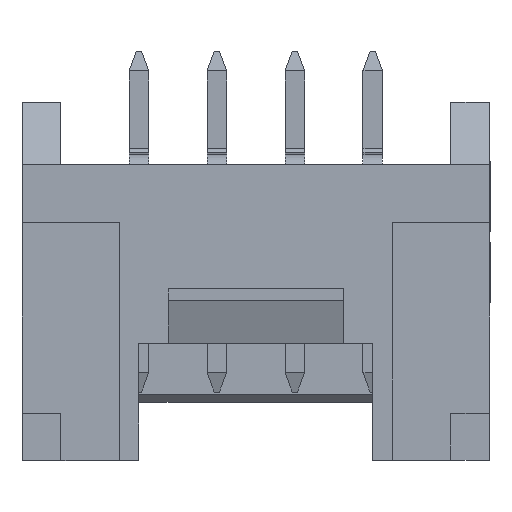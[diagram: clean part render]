
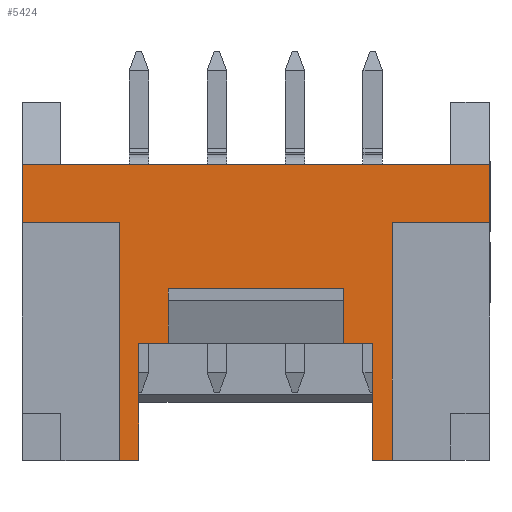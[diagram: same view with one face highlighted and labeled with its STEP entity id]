
A CAD part, top view. The second image highlights one B-rep face of the part: STEP entity #5424.
In plain terms, the highlighted planar face has unit normal (0, 0, 1).
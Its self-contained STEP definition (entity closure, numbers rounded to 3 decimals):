
#549 = VECTOR ( 'NONE', #18364, 1000. ) ;
#810 = VECTOR ( 'NONE', #2383, 1000. ) ;
#831 = VERTEX_POINT ( 'NONE', #10233 ) ;
#1001 = CARTESIAN_POINT ( 'NONE',  ( 3.5, -12.7, 4.65 ) ) ;
#1290 = CARTESIAN_POINT ( 'NONE',  ( 3., -2.1, 4.65 ) ) ;
#1603 = EDGE_CURVE ( 'NONE', #5416, #831, #9184, .T. ) ;
#2155 = EDGE_CURVE ( 'NONE', #17442, #17241, #17198, .T. ) ;
#2280 = VECTOR ( 'NONE', #12185, 1000. ) ;
#2317 = ORIENTED_EDGE ( 'NONE', *, *, #13703, .F. ) ;
#2330 = LINE ( 'NONE', #7779, #22401 ) ;
#2383 = DIRECTION ( 'NONE',  ( -1., 0., 0. ) ) ;
#3112 = DIRECTION ( 'NONE',  ( -1., 0., 0. ) ) ;
#3275 = VERTEX_POINT ( 'NONE', #13282 ) ;
#3505 = CARTESIAN_POINT ( 'NONE',  ( 3., -2.1, 4.65 ) ) ;
#3561 = ORIENTED_EDGE ( 'NONE', *, *, #23803, .F. ) ;
#3618 = ORIENTED_EDGE ( 'NONE', *, *, #2155, .T. ) ;
#3957 = DIRECTION ( 'NONE',  ( 0., 1., 0. ) ) ;
#4432 = EDGE_CURVE ( 'NONE', #17442, #23710, #2330, .T. ) ;
#4597 = DIRECTION ( 'NONE',  ( 0., 1., 0. ) ) ;
#4629 = CARTESIAN_POINT ( 'NONE',  ( -2.25, -0.7, 4.65 ) ) ;
#4718 = LINE ( 'NONE', #21087, #7409 ) ;
#4801 = VERTEX_POINT ( 'NONE', #13671 ) ;
#4852 = VERTEX_POINT ( 'NONE', #19725 ) ;
#5416 = VERTEX_POINT ( 'NONE', #15290 ) ;
#5424 = ADVANCED_FACE ( 'NONE', ( #9842 ), #6201, .T. ) ;
#5505 = ORIENTED_EDGE ( 'NONE', *, *, #4432, .F. ) ;
#6073 = VECTOR ( 'NONE', #16720, 1000. ) ;
#6201 = PLANE ( 'NONE',  #6450 ) ;
#6450 = AXIS2_PLACEMENT_3D ( 'NONE', #10196, #22930, #11767 ) ;
#6577 = EDGE_CURVE ( 'NONE', #23283, #9487, #21425, .T. ) ;
#7212 = LINE ( 'NONE', #12542, #549 ) ;
#7387 = CARTESIAN_POINT ( 'NONE',  ( -3., -5.1, 4.65 ) ) ;
#7409 = VECTOR ( 'NONE', #4597, 1000. ) ;
#7499 = EDGE_CURVE ( 'NONE', #8758, #12473, #11707, .T. ) ;
#7625 = CARTESIAN_POINT ( 'NONE',  ( 6., 2.5, 4.65 ) ) ;
#7779 = CARTESIAN_POINT ( 'NONE',  ( 6., 1., 4.65 ) ) ;
#7831 = VECTOR ( 'NONE', #18548, 1000. ) ;
#8082 = VERTEX_POINT ( 'NONE', #16111 ) ;
#8400 = ORIENTED_EDGE ( 'NONE', *, *, #10902, .F. ) ;
#8564 = LINE ( 'NONE', #21519, #11589 ) ;
#8758 = VERTEX_POINT ( 'NONE', #18306 ) ;
#8922 = EDGE_CURVE ( 'NONE', #3275, #5416, #14779, .T. ) ;
#8963 = DIRECTION ( 'NONE',  ( -1., 0., 0. ) ) ;
#9184 = LINE ( 'NONE', #18043, #7831 ) ;
#9487 = VERTEX_POINT ( 'NONE', #15906 ) ;
#9681 = LINE ( 'NONE', #16833, #6073 ) ;
#9738 = EDGE_CURVE ( 'NONE', #8082, #9854, #19962, .T. ) ;
#9842 = FACE_OUTER_BOUND ( 'NONE', #16760, .T. ) ;
#9854 = VERTEX_POINT ( 'NONE', #7387 ) ;
#10196 = CARTESIAN_POINT ( 'NONE',  ( 0., 4.1, 4.65 ) ) ;
#10230 = LINE ( 'NONE', #1001, #20177 ) ;
#10233 = CARTESIAN_POINT ( 'NONE',  ( 3.5, 1., 4.65 ) ) ;
#10902 = EDGE_CURVE ( 'NONE', #9487, #19272, #21778, .T. ) ;
#11247 = CARTESIAN_POINT ( 'NONE',  ( -3.5, -12.7, 4.65 ) ) ;
#11589 = VECTOR ( 'NONE', #3112, 1000. ) ;
#11707 = LINE ( 'NONE', #13649, #21954 ) ;
#11767 = DIRECTION ( 'NONE',  ( 0., -1., 0. ) ) ;
#11787 = ORIENTED_EDGE ( 'NONE', *, *, #12775, .F. ) ;
#12011 = ORIENTED_EDGE ( 'NONE', *, *, #16998, .T. ) ;
#12112 = DIRECTION ( 'NONE',  ( -1., 0., 0. ) ) ;
#12185 = DIRECTION ( 'NONE',  ( 0., 1., 0. ) ) ;
#12345 = DIRECTION ( 'NONE',  ( 0., -1., 0. ) ) ;
#12464 = CARTESIAN_POINT ( 'NONE',  ( -3., -8.1, 4.65 ) ) ;
#12470 = CARTESIAN_POINT ( 'NONE',  ( 0., -5.1, 4.65 ) ) ;
#12473 = VERTEX_POINT ( 'NONE', #4629 ) ;
#12542 = CARTESIAN_POINT ( 'NONE',  ( -6., 2.5, 4.65 ) ) ;
#12697 = ORIENTED_EDGE ( 'NONE', *, *, #1603, .F. ) ;
#12775 = EDGE_CURVE ( 'NONE', #9854, #17241, #17931, .T. ) ;
#12961 = DIRECTION ( 'NONE',  ( 0., -1., 0. ) ) ;
#13089 = ORIENTED_EDGE ( 'NONE', *, *, #8922, .F. ) ;
#13282 = CARTESIAN_POINT ( 'NONE',  ( 6., 2.5, 4.65 ) ) ;
#13649 = CARTESIAN_POINT ( 'NONE',  ( -2.25, -0.7, 4.65 ) ) ;
#13671 = CARTESIAN_POINT ( 'NONE',  ( 3.5, -5.1, 4.65 ) ) ;
#13680 = VECTOR ( 'NONE', #22747, 1000. ) ;
#13703 = EDGE_CURVE ( 'NONE', #8758, #8082, #23896, .T. ) ;
#14779 = LINE ( 'NONE', #7625, #22277 ) ;
#14964 = VERTEX_POINT ( 'NONE', #21103 ) ;
#15234 = LINE ( 'NONE', #20689, #810 ) ;
#15290 = CARTESIAN_POINT ( 'NONE',  ( 6., 1., 4.65 ) ) ;
#15684 = EDGE_CURVE ( 'NONE', #14964, #12473, #8564, .T. ) ;
#15808 = DIRECTION ( 'NONE',  ( 0., 1., 0. ) ) ;
#15906 = CARTESIAN_POINT ( 'NONE',  ( 3., -2.1, 4.65 ) ) ;
#16111 = CARTESIAN_POINT ( 'NONE',  ( -3., -2.1, 4.65 ) ) ;
#16147 = CARTESIAN_POINT ( 'NONE',  ( 2.25, -2.1, 4.65 ) ) ;
#16720 = DIRECTION ( 'NONE',  ( -1., 0., 0. ) ) ;
#16760 = EDGE_LOOP ( 'NONE', ( #12011, #12697, #13089, #23920, #18748, #5505, #3618, #11787, #17780, #2317, #19312, #21599, #19175, #8400, #20153, #3561 ) ) ;
#16833 = CARTESIAN_POINT ( 'NONE',  ( 3.5, 2.5, 4.65 ) ) ;
#16998 = EDGE_CURVE ( 'NONE', #4801, #831, #10230, .T. ) ;
#17047 = VECTOR ( 'NONE', #12112, 1000. ) ;
#17198 = LINE ( 'NONE', #11247, #13680 ) ;
#17241 = VERTEX_POINT ( 'NONE', #23543 ) ;
#17442 = VERTEX_POINT ( 'NONE', #23127 ) ;
#17737 = VECTOR ( 'NONE', #22006, 1000. ) ;
#17780 = ORIENTED_EDGE ( 'NONE', *, *, #9738, .F. ) ;
#17931 = LINE ( 'NONE', #12470, #17047 ) ;
#18043 = CARTESIAN_POINT ( 'NONE',  ( 6., 1., 4.65 ) ) ;
#18306 = CARTESIAN_POINT ( 'NONE',  ( -2.25, -2.1, 4.65 ) ) ;
#18364 = DIRECTION ( 'NONE',  ( 0., 1., 0. ) ) ;
#18418 = VECTOR ( 'NONE', #8963, 1000. ) ;
#18548 = DIRECTION ( 'NONE',  ( -1., 0., 0. ) ) ;
#18619 = EDGE_CURVE ( 'NONE', #3275, #4852, #9681, .T. ) ;
#18748 = ORIENTED_EDGE ( 'NONE', *, *, #22945, .F. ) ;
#18954 = CARTESIAN_POINT ( 'NONE',  ( 3., -5.1, 4.65 ) ) ;
#19175 = ORIENTED_EDGE ( 'NONE', *, *, #21524, .F. ) ;
#19272 = VERTEX_POINT ( 'NONE', #16147 ) ;
#19312 = ORIENTED_EDGE ( 'NONE', *, *, #7499, .T. ) ;
#19725 = CARTESIAN_POINT ( 'NONE',  ( -6., 2.5, 4.65 ) ) ;
#19962 = LINE ( 'NONE', #12464, #21171 ) ;
#20153 = ORIENTED_EDGE ( 'NONE', *, *, #6577, .F. ) ;
#20177 = VECTOR ( 'NONE', #15808, 1000. ) ;
#20689 = CARTESIAN_POINT ( 'NONE',  ( 0., -5.1, 4.65 ) ) ;
#21087 = CARTESIAN_POINT ( 'NONE',  ( 2.25, -0.7, 4.65 ) ) ;
#21094 = DIRECTION ( 'NONE',  ( -1., 0., 0. ) ) ;
#21103 = CARTESIAN_POINT ( 'NONE',  ( 2.25, -0.7, 4.65 ) ) ;
#21171 = VECTOR ( 'NONE', #12345, 1000. ) ;
#21425 = LINE ( 'NONE', #22999, #2280 ) ;
#21519 = CARTESIAN_POINT ( 'NONE',  ( 2.25, -0.7, 4.65 ) ) ;
#21524 = EDGE_CURVE ( 'NONE', #19272, #14964, #4718, .T. ) ;
#21599 = ORIENTED_EDGE ( 'NONE', *, *, #15684, .F. ) ;
#21778 = LINE ( 'NONE', #1290, #17737 ) ;
#21954 = VECTOR ( 'NONE', #3957, 1000. ) ;
#22006 = DIRECTION ( 'NONE',  ( -1., 0., 0. ) ) ;
#22277 = VECTOR ( 'NONE', #12961, 1000. ) ;
#22401 = VECTOR ( 'NONE', #21094, 1000. ) ;
#22747 = DIRECTION ( 'NONE',  ( 0., -1., 0. ) ) ;
#22930 = DIRECTION ( 'NONE',  ( 0., 0., 1. ) ) ;
#22945 = EDGE_CURVE ( 'NONE', #23710, #4852, #7212, .T. ) ;
#22999 = CARTESIAN_POINT ( 'NONE',  ( 3., -8.1, 4.65 ) ) ;
#23127 = CARTESIAN_POINT ( 'NONE',  ( -3.5, 1., 4.65 ) ) ;
#23283 = VERTEX_POINT ( 'NONE', #18954 ) ;
#23543 = CARTESIAN_POINT ( 'NONE',  ( -3.5, -5.1, 4.65 ) ) ;
#23710 = VERTEX_POINT ( 'NONE', #23746 ) ;
#23746 = CARTESIAN_POINT ( 'NONE',  ( -6., 1., 4.65 ) ) ;
#23803 = EDGE_CURVE ( 'NONE', #4801, #23283, #15234, .T. ) ;
#23896 = LINE ( 'NONE', #3505, #18418 ) ;
#23920 = ORIENTED_EDGE ( 'NONE', *, *, #18619, .T. ) ;
